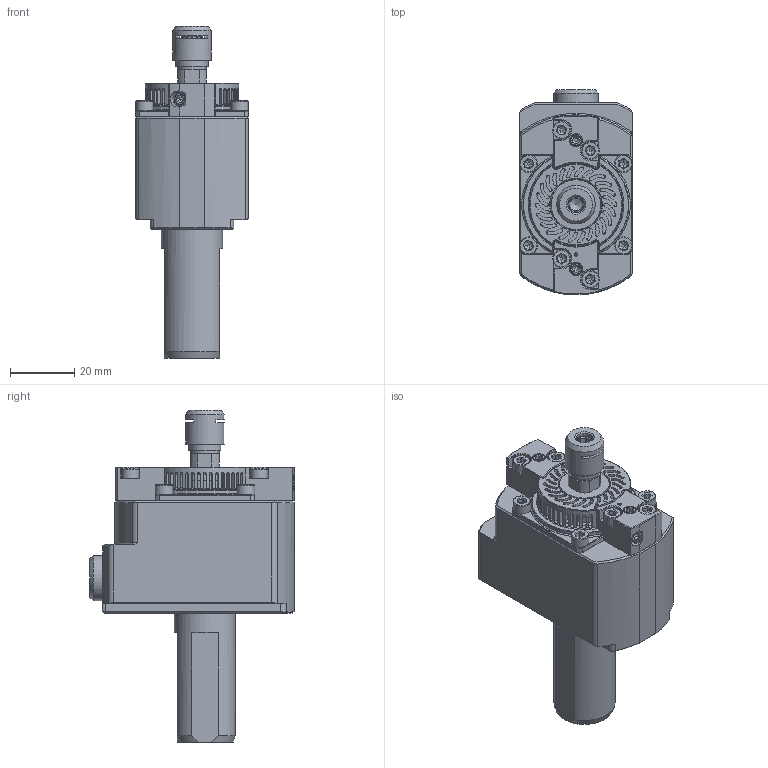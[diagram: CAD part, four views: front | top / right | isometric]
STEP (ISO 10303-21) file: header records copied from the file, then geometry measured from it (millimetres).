
FILE_DESCRIPTION (( 'STEP AP214' ), '1' );
FILE_NAME ('97-000-190 - detail.STEP', '2024-11-13T14:01:55', ( 'pc' ), ( '' ), 'SwSTEP 2.0', 'SolidWorks 2024', '' );
FILE_SCHEMA (( 'AUTOMOTIVE_DESIGN' ));
Length unit declared in the file: millimetre
Products named in the file (1): 97-000-190 - detail
Bounding box: 35 x 63.5 x 103.28 mm (x, y, z)
Volume: 83090.2 mm3; surface area: 33206.1 mm2
Topology: 23 solids, 23 shells, 1198 faces, 3222 edges, 2028 vertices
Faces by surface type: plane 575, cylinder 350, cone 185, torus 88
Full cylindrical faces by diameter (mm): 1 x1, 1.2 x2, 2.459 x8, 3 x10, 3.2 x8, 3.3 x4, 4 x9, 4.2 x1, 5.2 x2, 5.5 x8, 7 x4, 7.782 x2, 8.8 x2, 8.9 x1, 9.188 x1, 9.728 x2, 10 x1, 10.2 x1, 12 x3, 14 x2, 15 x1, 15.5 x1, 16 x1, 19.05 x1, 22.2 x1, 25 x1, 25.5 x1, 26 x2, 27 x1, 30.5 x1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
Entity records: 38479 total; most frequent: CARTESIAN_POINT 9594, ORIENTED_EDGE 5946, DIRECTION 5738, EDGE_CURVE 2973, AXIS2_PLACEMENT_3D 2141, VERTEX_POINT 1974, EDGE_LOOP 1509, VECTOR 1456
